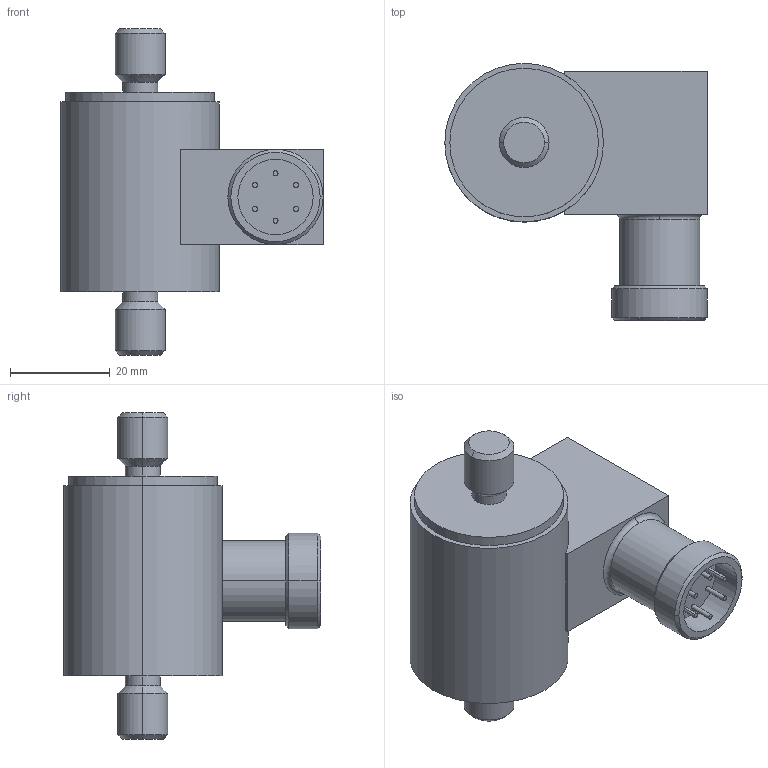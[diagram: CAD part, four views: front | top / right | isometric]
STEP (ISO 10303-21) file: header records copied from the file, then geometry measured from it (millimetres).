
FILE_DESCRIPTION(('STEP AP203'),'1');
FILE_NAME('C:/TPO v2/SharedFS/Outgoing/burster_85081-1_adp1y2x3chgyq18kkx8okwefg.stp','2013-08-27T18:42:49',('TraceParts'),('TraceParts S.A.'),'XStep 1.0',' ',' ');
FILE_SCHEMA(('CONFIG_CONTROL_DESIGN'));
Length unit declared in the file: millimetre
Products named in the file (1): 1
Bounding box: 52.6 x 51.55 x 65.5 mm (x, y, z)
Volume: 50026.6 mm3; surface area: 10409.8 mm2
Topology: 7 solids, 7 shells, 71 faces, 138 edges, 87 vertices
Faces by surface type: cylinder 30, plane 27, cone 12, torus 2
Entity records: 1863 total; most frequent: DIRECTION 361, CARTESIAN_POINT 297, ORIENTED_EDGE 276, AXIS2_PLACEMENT_3D 151, EDGE_CURVE 138, VERTEX_POINT 87, CIRCLE 79, EDGE_LOOP 77
